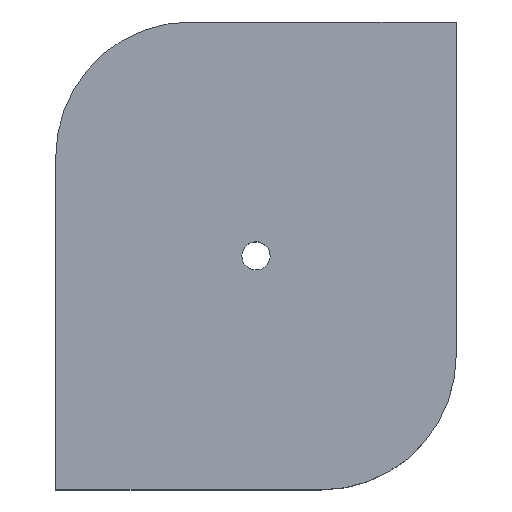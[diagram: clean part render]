
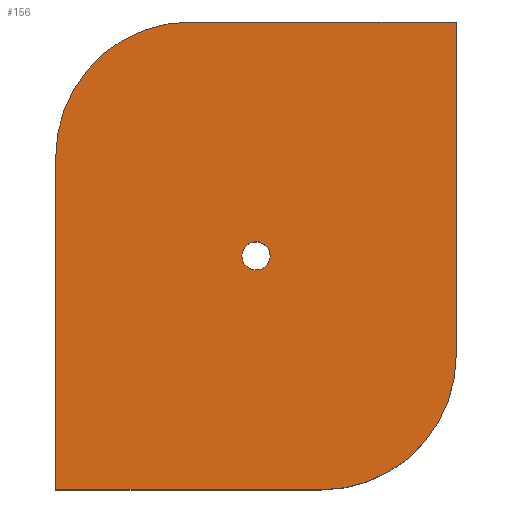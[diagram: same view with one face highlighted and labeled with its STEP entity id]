
A CAD part, top view. The second image highlights one B-rep face of the part: STEP entity #156.
In plain terms, the highlighted planar face has unit normal (0, 0, 1).
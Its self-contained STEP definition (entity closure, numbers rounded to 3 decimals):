
#63=CARTESIAN_POINT('Vertex',(55.825,71.508,34.)) ;
#77=CARTESIAN_POINT('Vertex',(63.175,67.492,34.)) ;
#80=CARTESIAN_POINT('Axis2P3D Location',(59.5,69.5,34.)) ;
#92=CARTESIAN_POINT('Axis2P3D Location',(0.,0.,34.)) ;
#97=CARTESIAN_POINT('Line Origine',(0.,49.5,34.)) ;
#101=CARTESIAN_POINT('Vertex',(0.,99.,34.)) ;
#103=CARTESIAN_POINT('Vertex',(0.,0.,34.)) ;
#106=CARTESIAN_POINT('Line Origine',(39.5,0.,34.)) ;
#110=CARTESIAN_POINT('Vertex',(79.,0.,34.)) ;
#113=CARTESIAN_POINT('Axis2P3D Location',(79.,40.,34.)) ;
#117=CARTESIAN_POINT('Vertex',(119.,40.,34.)) ;
#120=CARTESIAN_POINT('Line Origine',(119.,89.5,34.)) ;
#124=CARTESIAN_POINT('Vertex',(119.,139.,34.)) ;
#127=CARTESIAN_POINT('Line Origine',(79.5,139.,34.)) ;
#131=CARTESIAN_POINT('Vertex',(40.,139.,34.)) ;
#134=CARTESIAN_POINT('Axis2P3D Location',(40.,99.,34.)) ;
#147=CARTESIAN_POINT('Axis2P3D Location',(59.5,69.5,34.)) ;
#81=DIRECTION('Axis2P3D Direction',(0.,-0.,-1.)) ;
#93=DIRECTION('Axis2P3D Direction',(0.,0.,1.)) ;
#94=DIRECTION('Axis2P3D XDirection',(1.,0.,0.)) ;
#98=DIRECTION('Vector Direction',(0.,-1.,0.)) ;
#107=DIRECTION('Vector Direction',(1.,0.,0.)) ;
#114=DIRECTION('Axis2P3D Direction',(0.,0.,1.)) ;
#121=DIRECTION('Vector Direction',(0.,1.,0.)) ;
#128=DIRECTION('Vector Direction',(-1.,0.,0.)) ;
#135=DIRECTION('Axis2P3D Direction',(0.,0.,1.)) ;
#148=DIRECTION('Axis2P3D Direction',(0.,0.,1.)) ;
#82=AXIS2_PLACEMENT_3D('Circle Axis2P3D',#80,#81,$) ;
#95=AXIS2_PLACEMENT_3D('Plane Axis2P3D',#92,#93,#94) ;
#115=AXIS2_PLACEMENT_3D('Circle Axis2P3D',#113,#114,$) ;
#136=AXIS2_PLACEMENT_3D('Circle Axis2P3D',#134,#135,$) ;
#149=AXIS2_PLACEMENT_3D('Circle Axis2P3D',#147,#148,$) ;
#140=ORIENTED_EDGE('',*,*,#105,.T.) ;
#141=ORIENTED_EDGE('',*,*,#112,.T.) ;
#142=ORIENTED_EDGE('',*,*,#119,.F.) ;
#143=ORIENTED_EDGE('',*,*,#126,.T.) ;
#144=ORIENTED_EDGE('',*,*,#133,.T.) ;
#145=ORIENTED_EDGE('',*,*,#138,.F.) ;
#153=ORIENTED_EDGE('',*,*,#151,.F.) ;
#154=ORIENTED_EDGE('',*,*,#84,.F.) ;
#155=FACE_BOUND('',#152,.T.) ;
#99=VECTOR('Line Direction',#98,1.) ;
#108=VECTOR('Line Direction',#107,1.) ;
#122=VECTOR('Line Direction',#121,1.) ;
#129=VECTOR('Line Direction',#128,1.) ;
#156=ADVANCED_FACE('PartBody',(#146,#155),#96,.T.) ;
#83=CIRCLE('generated circle',#82,4.188) ;
#116=CIRCLE('generated circle',#115,40.) ;
#137=CIRCLE('generated circle',#136,40.) ;
#150=CIRCLE('generated circle',#149,4.188) ;
#84=EDGE_CURVE('',#78,#64,#83,.F.) ;
#105=EDGE_CURVE('',#102,#104,#100,.T.) ;
#112=EDGE_CURVE('',#104,#111,#109,.T.) ;
#119=EDGE_CURVE('',#118,#111,#116,.F.) ;
#126=EDGE_CURVE('',#118,#125,#123,.T.) ;
#133=EDGE_CURVE('',#125,#132,#130,.T.) ;
#138=EDGE_CURVE('',#102,#132,#137,.F.) ;
#151=EDGE_CURVE('',#64,#78,#150,.T.) ;
#139=EDGE_LOOP('',(#140,#141,#142,#143,#144,#145)) ;
#152=EDGE_LOOP('',(#153,#154)) ;
#146=FACE_OUTER_BOUND('',#139,.T.) ;
#100=LINE('Line',#97,#99) ;
#109=LINE('Line',#106,#108) ;
#123=LINE('Line',#120,#122) ;
#130=LINE('Line',#127,#129) ;
#96=PLANE('',#95) ;
#64=VERTEX_POINT('',#63) ;
#78=VERTEX_POINT('',#77) ;
#102=VERTEX_POINT('',#101) ;
#104=VERTEX_POINT('',#103) ;
#111=VERTEX_POINT('',#110) ;
#118=VERTEX_POINT('',#117) ;
#125=VERTEX_POINT('',#124) ;
#132=VERTEX_POINT('',#131) ;
